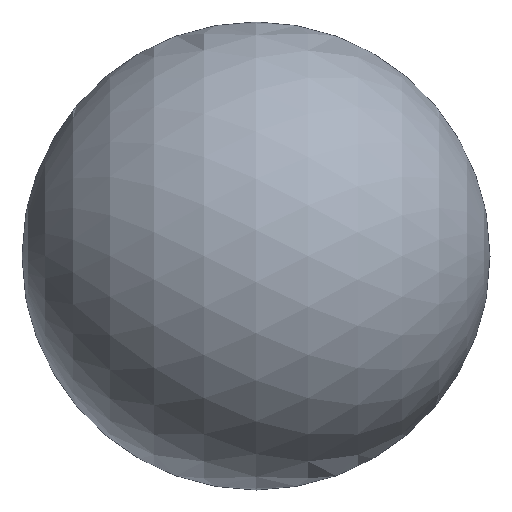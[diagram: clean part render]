
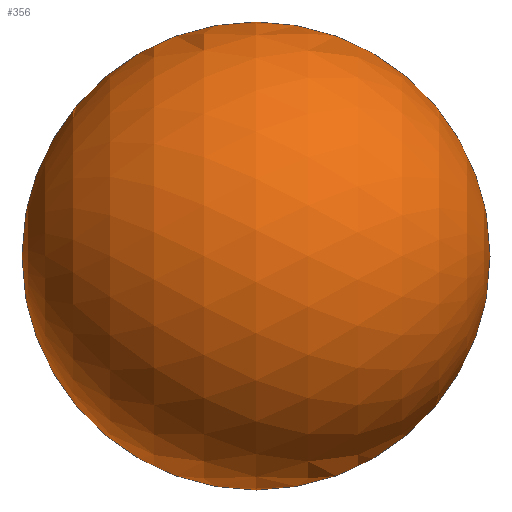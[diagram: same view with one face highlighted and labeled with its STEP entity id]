
A CAD part, front view. The second image highlights one B-rep face of the part: STEP entity #356.
In plain terms, the highlighted spherical face has radius 2.5 mm.
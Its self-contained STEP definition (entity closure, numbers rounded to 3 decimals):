
#321=CARTESIAN_POINT('',(0.,0.,0.));
#322=DIRECTION('',(0.,1.,0.));
#323=DIRECTION('',(1.,0.,0.));
#324=AXIS2_PLACEMENT_3D('',#321,#322,#323);
#326=CARTESIAN_POINT('',(0.,0.,0.));
#327=DIRECTION('',(0.,-1.,0.));
#328=DIRECTION('',(1.,0.,0.));
#329=AXIS2_PLACEMENT_3D('',#326,#327,#328);
#331=CARTESIAN_POINT('',(2.5,0.,0.));
#332=CARTESIAN_POINT('',(-2.5,0.,0.));
#333=VERTEX_POINT('',#331);
#334=VERTEX_POINT('',#332);
#347=CARTESIAN_POINT('',(0.,0.,0.));
#348=DIRECTION('',(1.,0.,0.));
#349=DIRECTION('',(0.,0.,1.));
#350=AXIS2_PLACEMENT_3D('',#347,#348,#349);
#351=SPHERICAL_SURFACE('',#350,2.5);
#352=ORIENTED_EDGE('',*,*,#340,.T.);
#353=ORIENTED_EDGE('',*,*,#342,.F.);
#354=EDGE_LOOP('',(#352,#353));
#355=FACE_OUTER_BOUND('',#354,.F.);
#356=ADVANCED_FACE('',(#355),#351,.T.);
#325=CIRCLE('',#324,2.5);
#330=CIRCLE('',#329,2.5);
#340=EDGE_CURVE('',#333,#334,#325,.T.);
#342=EDGE_CURVE('',#333,#334,#330,.T.);
